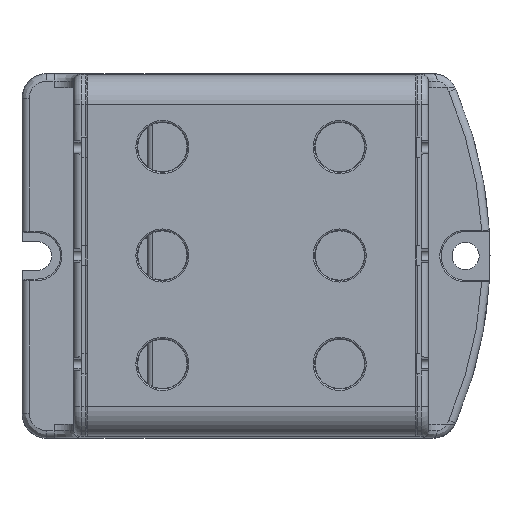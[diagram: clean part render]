
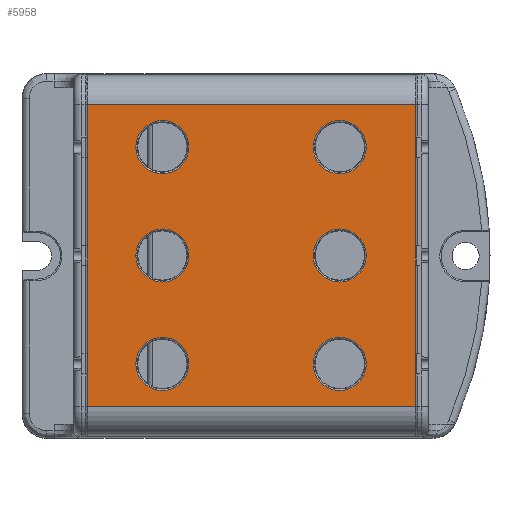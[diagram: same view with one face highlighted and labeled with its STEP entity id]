
A CAD part, top view. The second image highlights one B-rep face of the part: STEP entity #5958.
In plain terms, the highlighted planar face has unit normal (0, 0, 1).
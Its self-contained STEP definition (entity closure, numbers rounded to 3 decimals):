
#679=DIRECTION('',(0.,-1.,0.));
#680=VECTOR('',#679,61.2);
#681=CARTESIAN_POINT('',(33.3,30.6,9.));
#682=LINE('',#681,#680);
#683=DIRECTION('',(0.,1.,0.));
#684=VECTOR('',#683,61.2);
#685=CARTESIAN_POINT('',(-33.3,-30.6,9.));
#686=LINE('',#685,#684);
#687=DIRECTION('',(1.,0.,0.));
#688=VECTOR('',#687,66.6);
#689=CARTESIAN_POINT('',(-33.3,30.6,9.));
#690=LINE('',#689,#688);
#691=CARTESIAN_POINT('',(18.,22.,9.));
#692=DIRECTION('',(0.,0.,-1.));
#693=DIRECTION('',(1.,0.,0.));
#694=AXIS2_PLACEMENT_3D('',#691,#692,#693);
#696=CARTESIAN_POINT('',(18.,22.,9.));
#697=DIRECTION('',(0.,0.,-1.));
#698=DIRECTION('',(-1.,0.,0.));
#699=AXIS2_PLACEMENT_3D('',#696,#697,#698);
#701=CARTESIAN_POINT('',(-18.,22.,9.));
#702=DIRECTION('',(0.,0.,-1.));
#703=DIRECTION('',(1.,0.,0.));
#704=AXIS2_PLACEMENT_3D('',#701,#702,#703);
#706=CARTESIAN_POINT('',(-18.,22.,9.));
#707=DIRECTION('',(0.,0.,-1.));
#708=DIRECTION('',(-1.,0.,0.));
#709=AXIS2_PLACEMENT_3D('',#706,#707,#708);
#711=CARTESIAN_POINT('',(-18.,0.,9.));
#712=DIRECTION('',(0.,0.,-1.));
#713=DIRECTION('',(1.,0.,0.));
#714=AXIS2_PLACEMENT_3D('',#711,#712,#713);
#716=CARTESIAN_POINT('',(-18.,0.,9.));
#717=DIRECTION('',(0.,0.,-1.));
#718=DIRECTION('',(-1.,0.,0.));
#719=AXIS2_PLACEMENT_3D('',#716,#717,#718);
#721=CARTESIAN_POINT('',(-18.,-22.,9.));
#722=DIRECTION('',(0.,0.,-1.));
#723=DIRECTION('',(1.,0.,0.));
#724=AXIS2_PLACEMENT_3D('',#721,#722,#723);
#726=CARTESIAN_POINT('',(-18.,-22.,9.));
#727=DIRECTION('',(0.,0.,-1.));
#728=DIRECTION('',(-1.,0.,0.));
#729=AXIS2_PLACEMENT_3D('',#726,#727,#728);
#731=CARTESIAN_POINT('',(18.,0.,9.));
#732=DIRECTION('',(0.,0.,-1.));
#733=DIRECTION('',(1.,0.,0.));
#734=AXIS2_PLACEMENT_3D('',#731,#732,#733);
#736=CARTESIAN_POINT('',(18.,0.,9.));
#737=DIRECTION('',(0.,0.,-1.));
#738=DIRECTION('',(-1.,0.,0.));
#739=AXIS2_PLACEMENT_3D('',#736,#737,#738);
#741=CARTESIAN_POINT('',(18.,-22.,9.));
#742=DIRECTION('',(0.,0.,-1.));
#743=DIRECTION('',(1.,0.,0.));
#744=AXIS2_PLACEMENT_3D('',#741,#742,#743);
#746=CARTESIAN_POINT('',(18.,-22.,9.));
#747=DIRECTION('',(0.,0.,-1.));
#748=DIRECTION('',(-1.,0.,0.));
#749=AXIS2_PLACEMENT_3D('',#746,#747,#748);
#903=DIRECTION('',(1.,0.,0.));
#904=VECTOR('',#903,66.6);
#905=CARTESIAN_POINT('',(-33.3,-30.6,9.));
#906=LINE('',#905,#904);
#4486=CARTESIAN_POINT('',(33.3,-30.6,9.));
#4487=VERTEX_POINT('',#4486);
#4490=CARTESIAN_POINT('',(33.3,30.6,9.));
#4491=VERTEX_POINT('',#4490);
#4510=CARTESIAN_POINT('',(-33.3,30.6,9.));
#4511=VERTEX_POINT('',#4510);
#4514=CARTESIAN_POINT('',(-33.3,-30.6,9.));
#4515=VERTEX_POINT('',#4514);
#4524=CARTESIAN_POINT('',(23.39,22.,9.));
#4525=CARTESIAN_POINT('',(12.61,22.,9.));
#4526=VERTEX_POINT('',#4524);
#4527=VERTEX_POINT('',#4525);
#4532=CARTESIAN_POINT('',(-12.61,22.,9.));
#4533=CARTESIAN_POINT('',(-23.39,22.,9.));
#4534=VERTEX_POINT('',#4532);
#4535=VERTEX_POINT('',#4533);
#4540=CARTESIAN_POINT('',(-12.61,0.,9.));
#4541=CARTESIAN_POINT('',(-23.39,0.,9.));
#4542=VERTEX_POINT('',#4540);
#4543=VERTEX_POINT('',#4541);
#4548=CARTESIAN_POINT('',(-12.61,-22.,9.));
#4549=CARTESIAN_POINT('',(-23.39,-22.,9.));
#4550=VERTEX_POINT('',#4548);
#4551=VERTEX_POINT('',#4549);
#4556=CARTESIAN_POINT('',(23.39,0.,9.));
#4557=CARTESIAN_POINT('',(12.61,0.,9.));
#4558=VERTEX_POINT('',#4556);
#4559=VERTEX_POINT('',#4557);
#4564=CARTESIAN_POINT('',(23.39,-22.,9.));
#4565=CARTESIAN_POINT('',(12.61,-22.,9.));
#4566=VERTEX_POINT('',#4564);
#4567=VERTEX_POINT('',#4565);
#5908=CARTESIAN_POINT('',(-33.6,30.6,9.));
#5909=DIRECTION('',(0.,0.,1.));
#5910=DIRECTION('',(0.,-1.,0.));
#5911=AXIS2_PLACEMENT_3D('',#5908,#5909,#5910);
#5912=PLANE('',#5911);
#5914=ORIENTED_EDGE('',*,*,#5913,.T.);
#5916=ORIENTED_EDGE('',*,*,#5915,.F.);
#5918=ORIENTED_EDGE('',*,*,#5917,.T.);
#5920=ORIENTED_EDGE('',*,*,#5919,.T.);
#5921=EDGE_LOOP('',(#5914,#5916,#5918,#5920));
#5922=FACE_OUTER_BOUND('',#5921,.F.);
#5924=ORIENTED_EDGE('',*,*,#5923,.F.);
#5926=ORIENTED_EDGE('',*,*,#5925,.F.);
#5927=EDGE_LOOP('',(#5924,#5926));
#5928=FACE_BOUND('',#5927,.F.);
#5930=ORIENTED_EDGE('',*,*,#5929,.F.);
#5931=ORIENTED_EDGE('',*,*,#5898,.F.);
#5932=EDGE_LOOP('',(#5930,#5931));
#5933=FACE_BOUND('',#5932,.F.);
#5935=ORIENTED_EDGE('',*,*,#5934,.F.);
#5937=ORIENTED_EDGE('',*,*,#5936,.F.);
#5938=EDGE_LOOP('',(#5935,#5937));
#5939=FACE_BOUND('',#5938,.F.);
#5941=ORIENTED_EDGE('',*,*,#5940,.F.);
#5943=ORIENTED_EDGE('',*,*,#5942,.F.);
#5944=EDGE_LOOP('',(#5941,#5943));
#5945=FACE_BOUND('',#5944,.F.);
#5947=ORIENTED_EDGE('',*,*,#5946,.F.);
#5949=ORIENTED_EDGE('',*,*,#5948,.F.);
#5950=EDGE_LOOP('',(#5947,#5949));
#5951=FACE_BOUND('',#5950,.F.);
#5953=ORIENTED_EDGE('',*,*,#5952,.F.);
#5955=ORIENTED_EDGE('',*,*,#5954,.F.);
#5956=EDGE_LOOP('',(#5953,#5955));
#5957=FACE_BOUND('',#5956,.F.);
#695=CIRCLE('',#694,5.39);
#700=CIRCLE('',#699,5.39);
#705=CIRCLE('',#704,5.39);
#710=CIRCLE('',#709,5.39);
#715=CIRCLE('',#714,5.39);
#720=CIRCLE('',#719,5.39);
#725=CIRCLE('',#724,5.39);
#730=CIRCLE('',#729,5.39);
#735=CIRCLE('',#734,5.39);
#740=CIRCLE('',#739,5.39);
#745=CIRCLE('',#744,5.39);
#750=CIRCLE('',#749,5.39);
#5898=EDGE_CURVE('',#4535,#4534,#710,.T.);
#5913=EDGE_CURVE('',#4491,#4487,#682,.T.);
#5915=EDGE_CURVE('',#4515,#4487,#906,.T.);
#5917=EDGE_CURVE('',#4515,#4511,#686,.T.);
#5919=EDGE_CURVE('',#4511,#4491,#690,.T.);
#5923=EDGE_CURVE('',#4526,#4527,#695,.T.);
#5925=EDGE_CURVE('',#4527,#4526,#700,.T.);
#5929=EDGE_CURVE('',#4534,#4535,#705,.T.);
#5934=EDGE_CURVE('',#4542,#4543,#715,.T.);
#5936=EDGE_CURVE('',#4543,#4542,#720,.T.);
#5940=EDGE_CURVE('',#4550,#4551,#725,.T.);
#5942=EDGE_CURVE('',#4551,#4550,#730,.T.);
#5946=EDGE_CURVE('',#4558,#4559,#735,.T.);
#5948=EDGE_CURVE('',#4559,#4558,#740,.T.);
#5952=EDGE_CURVE('',#4566,#4567,#745,.T.);
#5954=EDGE_CURVE('',#4567,#4566,#750,.T.);
#5958=ADVANCED_FACE('',(#5922,#5928,#5933,#5939,#5945,#5951,#5957),#5912,.T.);
